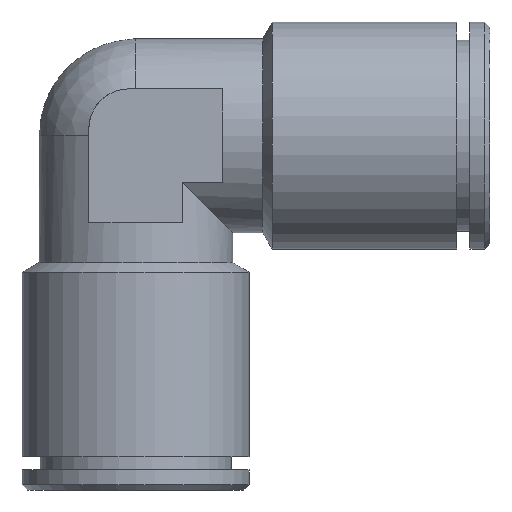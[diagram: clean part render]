
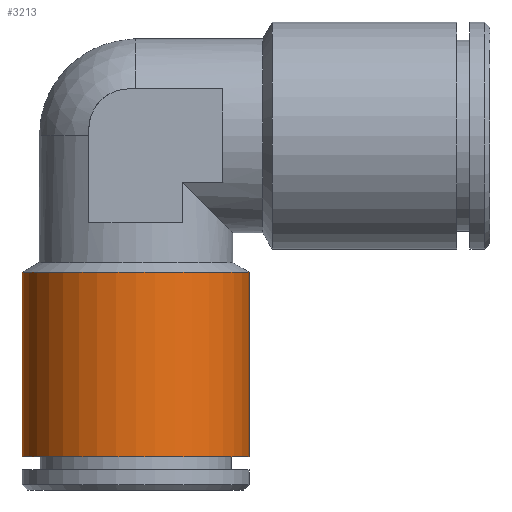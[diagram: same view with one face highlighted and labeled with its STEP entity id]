
A CAD part, front view. The second image highlights one B-rep face of the part: STEP entity #3213.
In plain terms, the highlighted cylindrical face has radius 8.5 mm (diameter 17 mm), a full revolution.
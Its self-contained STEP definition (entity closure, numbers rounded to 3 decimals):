
#1401=ORIENTED_EDGE('',*,*,#1759,.T.);
#1402=ORIENTED_EDGE('',*,*,#1760,.F.);
#1609=CIRCLE('',#3055,8.5);
#1610=CIRCLE('',#3057,8.5);
#1675=VERTEX_POINT('',#2518);
#1676=VERTEX_POINT('',#2521);
#1759=EDGE_CURVE('',#1675,#1675,#1609,.T.);
#1760=EDGE_CURVE('',#1676,#1676,#1610,.T.);
#1872=EDGE_LOOP('',(#1401));
#1873=EDGE_LOOP('',(#1402));
#1987=FACE_BOUND('',#1872,.T.);
#1988=FACE_BOUND('',#1873,.T.);
#2124=DIRECTION('',(0.,1.,0.));
#2125=DIRECTION('',(8.5,0.,0.));
#2126=DIRECTION('',(0.,1.,0.));
#2127=DIRECTION('',(1.,0.,0.));
#2128=DIRECTION('',(0.,1.,0.));
#2129=DIRECTION('',(8.5,0.,0.));
#2518=CARTESIAN_POINT('',(18.074,-24.,0.));
#2519=CARTESIAN_POINT('',(9.574,-24.,0.));
#2520=CARTESIAN_POINT('',(9.574,-24.,0.));
#2521=CARTESIAN_POINT('',(18.074,-10.222,0.));
#2522=CARTESIAN_POINT('',(9.574,-10.222,0.));
#3055=AXIS2_PLACEMENT_3D('',#2519,#2124,#2125);
#3056=AXIS2_PLACEMENT_3D('',#2520,#2126,#2127);
#3057=AXIS2_PLACEMENT_3D('',#2522,#2128,#2129);
#3184=CYLINDRICAL_SURFACE('',#3056,8.5);
#3213=ADVANCED_FACE('',(#1987,#1988),#3184,.T.);
